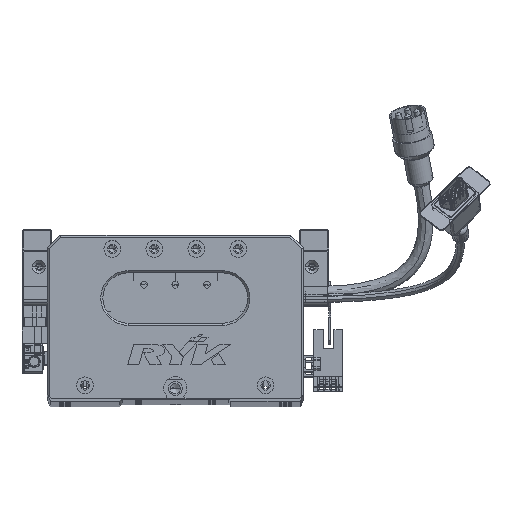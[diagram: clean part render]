
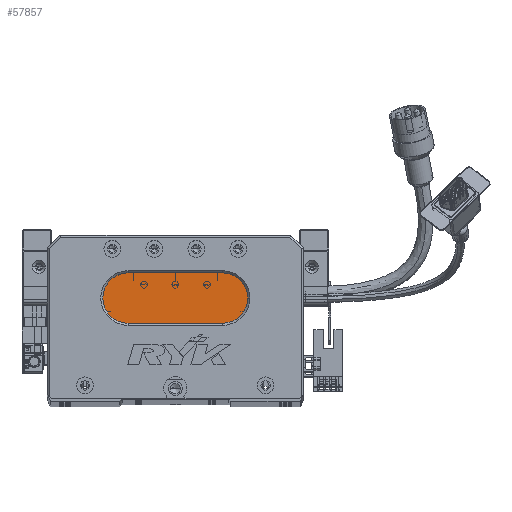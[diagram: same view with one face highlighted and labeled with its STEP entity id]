
A CAD part, top view. The second image highlights one B-rep face of the part: STEP entity #57857.
In plain terms, the highlighted planar face has unit normal (0, 0, 1) as drawn and (0, 0, -1) by its records, which use the part's own axes.
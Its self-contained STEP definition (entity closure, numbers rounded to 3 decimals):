
#663 = ORIENTED_EDGE ( 'NONE', *, *, #54226, .T. ) ;
#1625 = CARTESIAN_POINT ( 'NONE',  ( 38.5, 36., 13. ) ) ;
#2162 = CARTESIAN_POINT ( 'NONE',  ( 83.5, 36., 13. ) ) ;
#2741 = CIRCLE ( 'NONE', #81063, 12. ) ;
#4876 = FACE_OUTER_BOUND ( 'NONE', #41838, .T. ) ;
#9808 = VECTOR ( 'NONE', #66740, 1000. ) ;
#10347 = CARTESIAN_POINT ( 'NONE',  ( 26.5, 48., 13. ) ) ;
#11903 = DIRECTION ( 'NONE',  ( 0., 0., -1. ) ) ;
#13707 = ORIENTED_EDGE ( 'NONE', *, *, #64647, .T. ) ;
#20498 = DIRECTION ( 'NONE',  ( 0., 0., -1. ) ) ;
#23654 = EDGE_CURVE ( 'NONE', #76020, #43677, #47626, .T. ) ;
#27199 = CARTESIAN_POINT ( 'NONE',  ( 83.5, 48., 13. ) ) ;
#27647 = DIRECTION ( 'NONE',  ( -1., 0., 0. ) ) ;
#28917 = DIRECTION ( 'NONE',  ( 0., 0., -1. ) ) ;
#34981 = CARTESIAN_POINT ( 'NONE',  ( 38.5, 48., 13. ) ) ;
#38131 = CARTESIAN_POINT ( 'NONE',  ( 38.5, 48., 13. ) ) ;
#38506 = EDGE_CURVE ( 'NONE', #64042, #87794, #89158, .T. ) ;
#38561 = CARTESIAN_POINT ( 'NONE',  ( 38.5, 60., 13. ) ) ;
#41838 = EDGE_LOOP ( 'NONE', ( #80257, #57923, #13707, #663, #50470 ) ) ;
#43677 = VERTEX_POINT ( 'NONE', #1625 ) ;
#47626 = LINE ( 'NONE', #2162, #9808 ) ;
#50470 = ORIENTED_EDGE ( 'NONE', *, *, #38506, .T. ) ;
#50737 = AXIS2_PLACEMENT_3D ( 'NONE', #62419, #11903, #70082 ) ;
#51850 = CARTESIAN_POINT ( 'NONE',  ( 83.5, 60., 13. ) ) ;
#52177 = CIRCLE ( 'NONE', #87768, 12. ) ;
#53146 = DIRECTION ( 'NONE',  ( -1., 0., 0. ) ) ;
#54226 = EDGE_CURVE ( 'NONE', #78644, #64042, #52177, .T. ) ;
#57857 = ADVANCED_FACE ( 'NONE', ( #4876 ), #91442, .T. ) ;
#57923 = ORIENTED_EDGE ( 'NONE', *, *, #23654, .T. ) ;
#62419 = CARTESIAN_POINT ( 'NONE',  ( 83.5, 48., 13. ) ) ;
#64042 = VERTEX_POINT ( 'NONE', #38561 ) ;
#64647 = EDGE_CURVE ( 'NONE', #43677, #78644, #2741, .T. ) ;
#66245 = DIRECTION ( 'NONE',  ( 1., 0., 0. ) ) ;
#66740 = DIRECTION ( 'NONE',  ( -1., 0., 0. ) ) ;
#67332 = EDGE_CURVE ( 'NONE', #87794, #76020, #81404, .T. ) ;
#70082 = DIRECTION ( 'NONE',  ( -1., 0., 0. ) ) ;
#74381 = VECTOR ( 'NONE', #66245, 1000. ) ;
#76020 = VERTEX_POINT ( 'NONE', #81629 ) ;
#78644 = VERTEX_POINT ( 'NONE', #10347 ) ;
#80257 = ORIENTED_EDGE ( 'NONE', *, *, #67332, .T. ) ;
#81063 = AXIS2_PLACEMENT_3D ( 'NONE', #38131, #89201, #53146 ) ;
#81404 = CIRCLE ( 'NONE', #88325, 12. ) ;
#81629 = CARTESIAN_POINT ( 'NONE',  ( 83.5, 36., 13. ) ) ;
#87768 = AXIS2_PLACEMENT_3D ( 'NONE', #34981, #28917, #27647 ) ;
#87794 = VERTEX_POINT ( 'NONE', #92252 ) ;
#88325 = AXIS2_PLACEMENT_3D ( 'NONE', #27199, #20498, #92662 ) ;
#89158 = LINE ( 'NONE', #51850, #74381 ) ;
#89201 = DIRECTION ( 'NONE',  ( 0., 0., -1. ) ) ;
#91442 = PLANE ( 'NONE',  #50737 ) ;
#92252 = CARTESIAN_POINT ( 'NONE',  ( 83.5, 60., 13. ) ) ;
#92662 = DIRECTION ( 'NONE',  ( -1., 0., 0. ) ) ;
